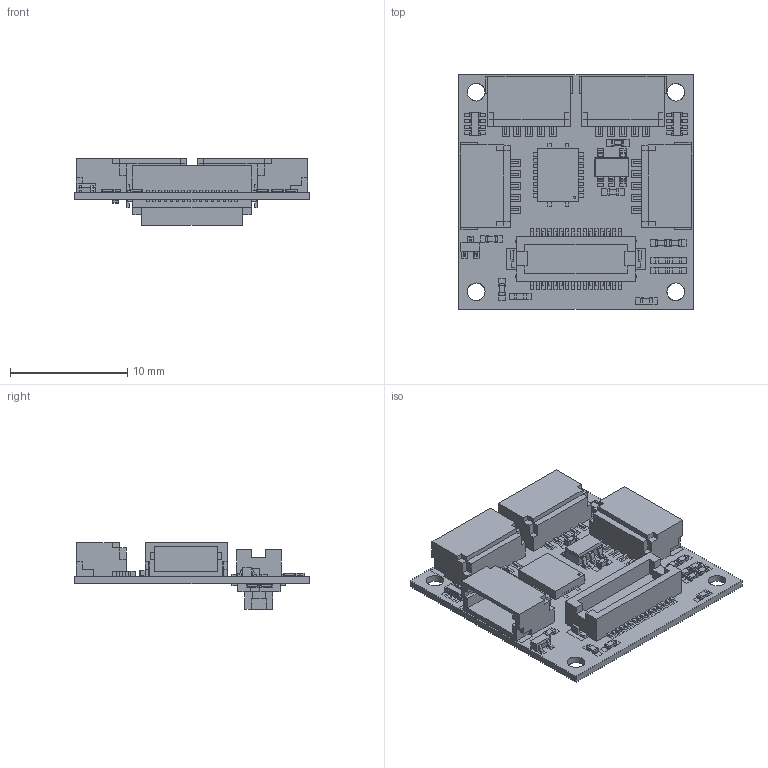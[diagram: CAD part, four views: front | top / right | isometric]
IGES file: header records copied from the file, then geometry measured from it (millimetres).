
Global section: file name: Filename.iges; native system: Open CASCADE 7.4; preprocessor: Open CASCADE IGES processor 7.4; date: 20200722.134647; units: millimetre
Bounding box: 20 x 20 x 5.7 mm (x, y, z)
Surface area: 3308.7 mm2 (no closed solid volume)
Topology: 0 solids, 0 shells, 4351 faces, 20118 edges, 20957 vertices
Faces by surface type: plane 4190, revolution 161
